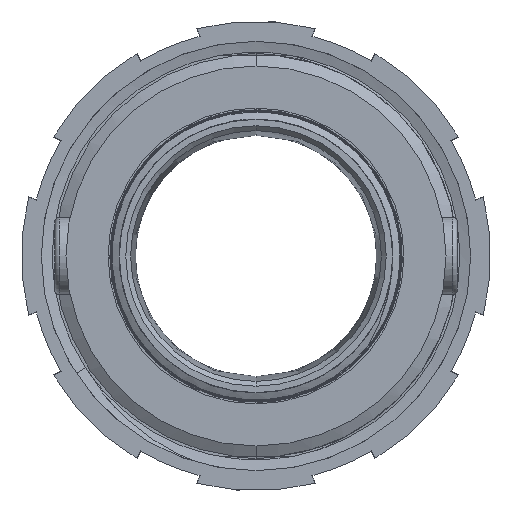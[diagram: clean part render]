
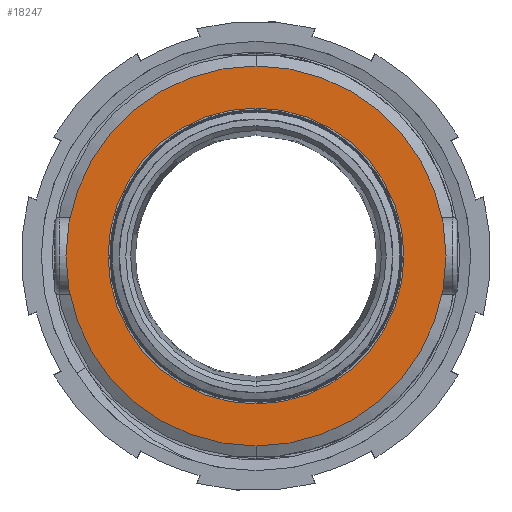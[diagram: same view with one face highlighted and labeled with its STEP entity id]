
A CAD part, front view. The second image highlights one B-rep face of the part: STEP entity #18247.
In plain terms, the highlighted planar face has unit normal (0, -1, 0).
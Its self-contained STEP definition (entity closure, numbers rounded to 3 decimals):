
#1126 = AXIS2_PLACEMENT_3D ( 'NONE', #2938, #3010, #14313 ) ;
#1364 = PLANE ( 'NONE',  #1126 ) ;
#1474 = CARTESIAN_POINT ( 'NONE',  ( 0., -12.956, 39.389 ) ) ;
#1961 = AXIS2_PLACEMENT_3D ( 'NONE', #7888, #19118, #9526 ) ;
#2199 = DIRECTION ( 'NONE',  ( 0., -1., 0. ) ) ;
#2938 = CARTESIAN_POINT ( 'NONE',  ( 0., -12.956, 0. ) ) ;
#3010 = DIRECTION ( 'NONE',  ( 0., -1., 0. ) ) ;
#3712 = AXIS2_PLACEMENT_3D ( 'NONE', #16818, #7194, #18441 ) ;
#4306 = FACE_OUTER_BOUND ( 'NONE', #12786, .T. ) ;
#4495 = VERTEX_POINT ( 'NONE', #19964 ) ;
#4506 = CIRCLE ( 'NONE', #1961, 39.389 ) ;
#5342 = CIRCLE ( 'NONE', #10334, 30.668 ) ;
#5616 = CARTESIAN_POINT ( 'NONE',  ( 0., -12.956, 0. ) ) ;
#7194 = DIRECTION ( 'NONE',  ( 0., -1., 0. ) ) ;
#7257 = DIRECTION ( 'NONE',  ( 0., 0., -1. ) ) ;
#7738 = VERTEX_POINT ( 'NONE', #9409 ) ;
#7888 = CARTESIAN_POINT ( 'NONE',  ( 0., -12.956, 0. ) ) ;
#7998 = ORIENTED_EDGE ( 'NONE', *, *, #20448, .T. ) ;
#8071 = EDGE_CURVE ( 'NONE', #7738, #10645, #5342, .T. ) ;
#9409 = CARTESIAN_POINT ( 'NONE',  ( 0., -12.956, -30.668 ) ) ;
#9526 = DIRECTION ( 'NONE',  ( 0., 0., -1. ) ) ;
#10334 = AXIS2_PLACEMENT_3D ( 'NONE', #11926, #2199, #13521 ) ;
#10645 = VERTEX_POINT ( 'NONE', #18554 ) ;
#10670 = EDGE_CURVE ( 'NONE', #10645, #7738, #11405, .T. ) ;
#11405 = CIRCLE ( 'NONE', #12150, 30.668 ) ;
#11625 = ORIENTED_EDGE ( 'NONE', *, *, #8071, .F. ) ;
#11926 = CARTESIAN_POINT ( 'NONE',  ( 0., -12.956, 0. ) ) ;
#12150 = AXIS2_PLACEMENT_3D ( 'NONE', #5616, #16876, #7257 ) ;
#12786 = EDGE_LOOP ( 'NONE', ( #19269, #7998 ) ) ;
#13521 = DIRECTION ( 'NONE',  ( 0., 0., -1. ) ) ;
#13751 = VERTEX_POINT ( 'NONE', #1474 ) ;
#14313 = DIRECTION ( 'NONE',  ( 0., 0., -1. ) ) ;
#16627 = FACE_BOUND ( 'NONE', #16943, .T. ) ;
#16818 = CARTESIAN_POINT ( 'NONE',  ( 0., -12.956, 0. ) ) ;
#16876 = DIRECTION ( 'NONE',  ( 0., -1., 0. ) ) ;
#16943 = EDGE_LOOP ( 'NONE', ( #11625, #19451 ) ) ;
#17941 = EDGE_CURVE ( 'NONE', #4495, #13751, #20167, .T. ) ;
#18247 = ADVANCED_FACE ( 'NONE', ( #4306, #16627 ), #1364, .T. ) ;
#18441 = DIRECTION ( 'NONE',  ( 0., 0., -1. ) ) ;
#18554 = CARTESIAN_POINT ( 'NONE',  ( 0., -12.956, 30.668 ) ) ;
#19118 = DIRECTION ( 'NONE',  ( 0., -1., 0. ) ) ;
#19269 = ORIENTED_EDGE ( 'NONE', *, *, #17941, .T. ) ;
#19451 = ORIENTED_EDGE ( 'NONE', *, *, #10670, .F. ) ;
#19964 = CARTESIAN_POINT ( 'NONE',  ( 0., -12.956, -39.389 ) ) ;
#20167 = CIRCLE ( 'NONE', #3712, 39.389 ) ;
#20448 = EDGE_CURVE ( 'NONE', #13751, #4495, #4506, .T. ) ;
